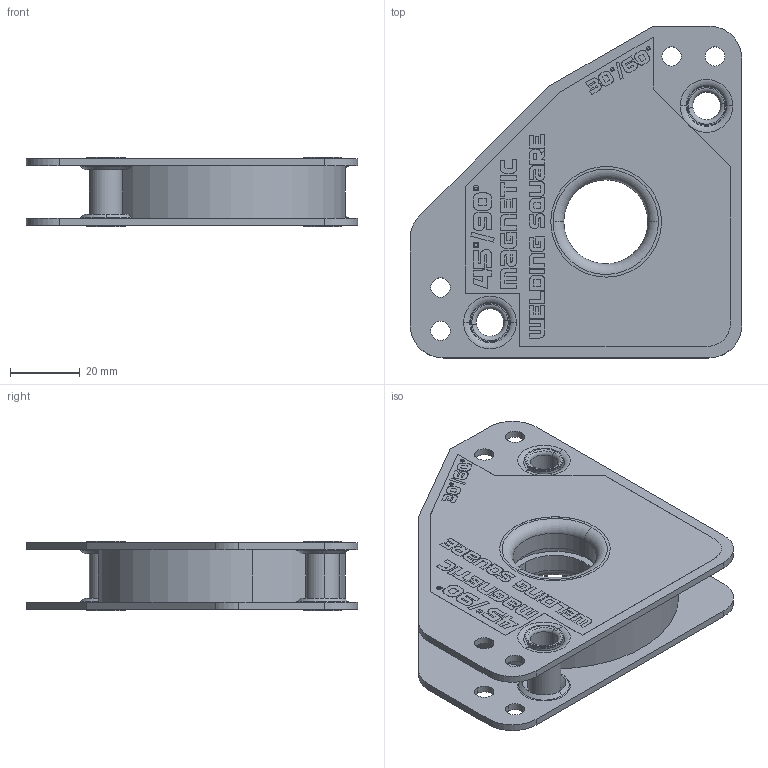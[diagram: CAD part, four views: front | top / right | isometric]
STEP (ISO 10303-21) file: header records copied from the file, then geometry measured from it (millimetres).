
FILE_DESCRIPTION (( 'STEP AP203' ), '1' );
FILE_NAME ('WS301.STEP', '2018-08-21T12:20:17', ( '' ), ( '' ), 'SwSTEP 2.0', 'SolidWorks 2015', '' );
FILE_SCHEMA (( 'CONFIG_CONTROL_DESIGN' ));
Length unit declared in the file: inch
Products named in the file (1): WS301
Bounding box: 95.25 x 95.25 x 19.84 mm (x, y, z)
Volume: 78047.1 mm3; surface area: 52246.4 mm2
Topology: 6 solids, 6 shells, 845 faces, 2286 edges, 1508 vertices
Faces by surface type: plane 402, bspline 335, cylinder 52, torus 32, cone 24
Entity records: 28263 total; most frequent: CARTESIAN_POINT 8991, ORIENTED_EDGE 4572, DIRECTION 2838, EDGE_CURVE 2286, VERTEX_POINT 1508, VECTOR 1416, LINE 1416, EDGE_LOOP 936
